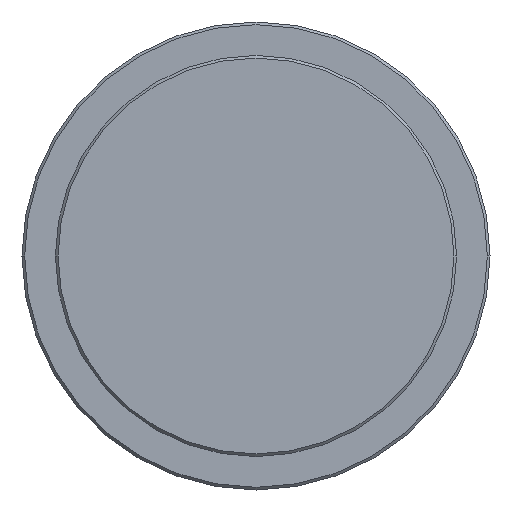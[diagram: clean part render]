
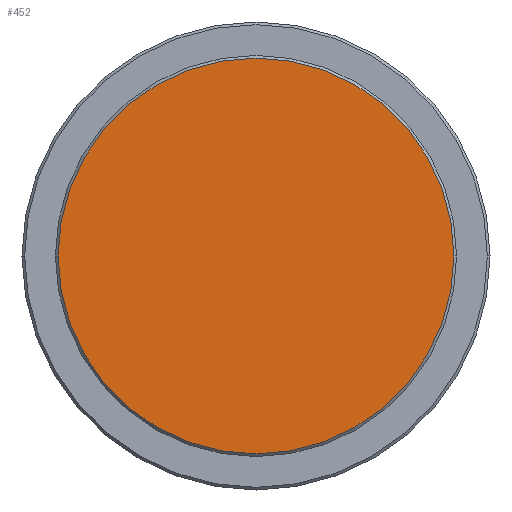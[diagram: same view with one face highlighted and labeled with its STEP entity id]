
A CAD part, left-side view. The second image highlights one B-rep face of the part: STEP entity #452.
In plain terms, the highlighted planar face has unit normal (-1, 0, 0).
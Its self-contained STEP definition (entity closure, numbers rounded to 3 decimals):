
#99 = CARTESIAN_POINT ( 'NONE',  ( -81., 0., 0. ) ) ;
#205 = AXIS2_PLACEMENT_3D ( 'NONE', #99, #1300, #213 ) ;
#213 = DIRECTION ( 'NONE',  ( 0., -1., 0. ) ) ;
#239 = DIRECTION ( 'NONE',  ( 0., -1., 0. ) ) ;
#404 = EDGE_CURVE ( 'NONE', #942, #903, #696, .T. ) ;
#426 = EDGE_CURVE ( 'NONE', #903, #942, #870, .T. ) ;
#452 = ADVANCED_FACE ( 'NONE', ( #1095 ), #523, .T. ) ;
#473 = AXIS2_PLACEMENT_3D ( 'NONE', #626, #1570, #746 ) ;
#523 = PLANE ( 'NONE',  #1476 ) ;
#555 = DIRECTION ( 'NONE',  ( -1., 0., 0. ) ) ;
#626 = CARTESIAN_POINT ( 'NONE',  ( -81., 0., 0. ) ) ;
#696 = CIRCLE ( 'NONE', #473, 14.8 ) ;
#746 = DIRECTION ( 'NONE',  ( 0., -1., 0. ) ) ;
#870 = CIRCLE ( 'NONE', #205, 14.8 ) ;
#903 = VERTEX_POINT ( 'NONE', #1076 ) ;
#939 = CARTESIAN_POINT ( 'NONE',  ( -81., 0., 0. ) ) ;
#942 = VERTEX_POINT ( 'NONE', #1050 ) ;
#1050 = CARTESIAN_POINT ( 'NONE',  ( -81., 14.8, 0. ) ) ;
#1076 = CARTESIAN_POINT ( 'NONE',  ( -81., -14.8, 0. ) ) ;
#1095 = FACE_OUTER_BOUND ( 'NONE', #1422, .T. ) ;
#1158 = ORIENTED_EDGE ( 'NONE', *, *, #404, .T. ) ;
#1300 = DIRECTION ( 'NONE',  ( -1., 0., 0. ) ) ;
#1422 = EDGE_LOOP ( 'NONE', ( #1158, #1596 ) ) ;
#1476 = AXIS2_PLACEMENT_3D ( 'NONE', #939, #555, #239 ) ;
#1570 = DIRECTION ( 'NONE',  ( -1., 0., 0. ) ) ;
#1596 = ORIENTED_EDGE ( 'NONE', *, *, #426, .T. ) ;
